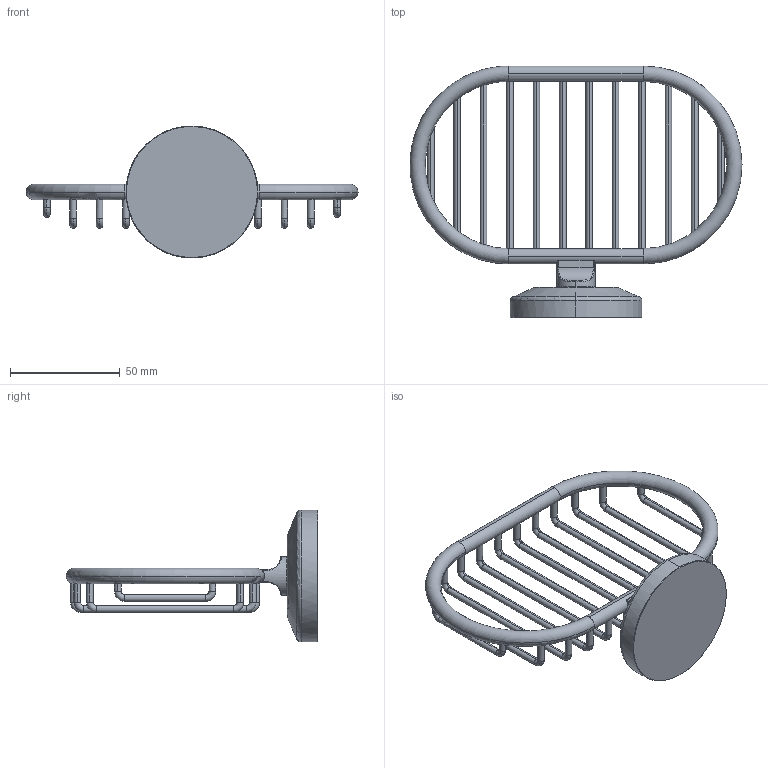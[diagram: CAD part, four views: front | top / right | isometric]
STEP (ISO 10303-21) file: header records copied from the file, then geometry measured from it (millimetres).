
FILE_DESCRIPTION(('THIS FILE CONTAINS SOME STEP INSTANCES'),'1');
FILE_NAME('sta_050.stp','2015-12-07T13:13:20',('UNDEFINED'),('UNDEFINED'),'T-FLEX CAD STEP converter','T-FLEX CAD','');
FILE_SCHEMA(('CONFIG_CONTROL_DESIGN'));
Length unit declared in the file: metre
Products named in the file (1): 3D 鐨飹懤艜_15
Bounding box: 150.95 x 114.5 x 60 mm (x, y, z)
Volume: 59106.1 mm3; surface area: 26397 mm2
Topology: 1 solids, 1 shells, 163 faces, 424 edges, 251 vertices
Faces by surface type: cylinder 86, torus 56, bspline 9, cone 6, plane 6
Entity records: 11216 total; most frequent: CARTESIAN_POINT 8004, ORIENTED_EDGE 848, DIRECTION 482, EDGE_CURVE 424, VERTEX_POINT 251, AXIS2_PLACEMENT_3D 191, EDGE_LOOP 177, ADVANCED_FACE 163
